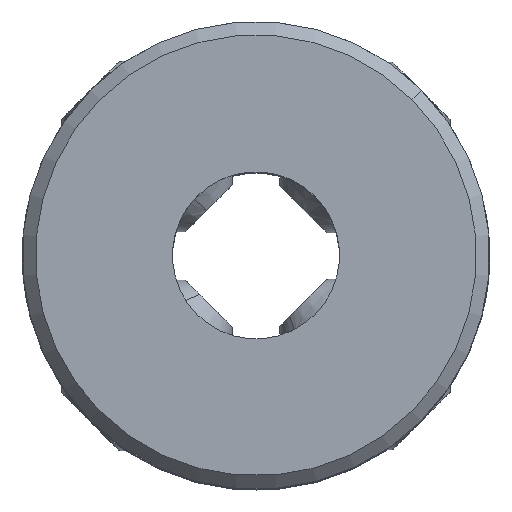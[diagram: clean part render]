
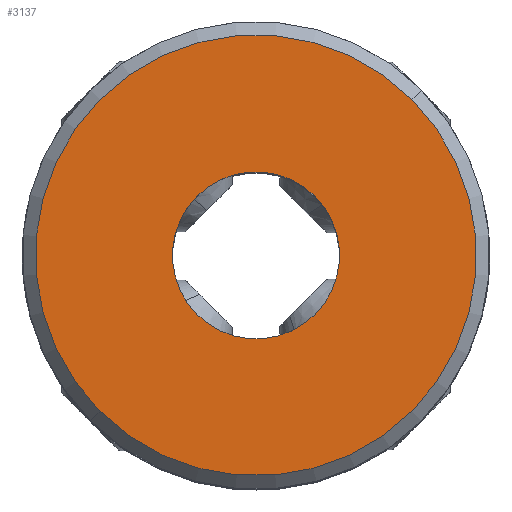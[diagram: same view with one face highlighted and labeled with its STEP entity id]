
A CAD part, top view. The second image highlights one B-rep face of the part: STEP entity #3137.
In plain terms, the highlighted planar face has unit normal (0, 0, 1).
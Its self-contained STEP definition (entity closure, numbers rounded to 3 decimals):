
#177 = ORIENTED_EDGE ( 'NONE', *, *, #7961, .T. ) ;
#189 = CARTESIAN_POINT ( 'NONE',  ( 0., 0., 11. ) ) ;
#813 = DIRECTION ( 'NONE',  ( 0., 0., -1. ) ) ;
#1321 = EDGE_LOOP ( 'NONE', ( #2230, #177 ) ) ;
#1416 = CIRCLE ( 'NONE', #7337, 6.6 ) ;
#1587 = EDGE_CURVE ( 'NONE', #6333, #5643, #1899, .T. ) ;
#1853 = DIRECTION ( 'NONE',  ( -0.707, -0.707, 0. ) ) ;
#1869 = DIRECTION ( 'NONE',  ( 0., 0., 1. ) ) ;
#1899 = CIRCLE ( 'NONE', #4914, 2.5 ) ;
#2121 = DIRECTION ( 'NONE',  ( 0., 0., -1. ) ) ;
#2230 = ORIENTED_EDGE ( 'NONE', *, *, #5983, .T. ) ;
#2678 = CARTESIAN_POINT ( 'NONE',  ( -4.667, -4.667, 11. ) ) ;
#2713 = DIRECTION ( 'NONE',  ( 0., 0., 1. ) ) ;
#2981 = CARTESIAN_POINT ( 'NONE',  ( 0., 0., 11. ) ) ;
#3137 = ADVANCED_FACE ( 'NONE', ( #6906, #6384 ), #10849, .F. ) ;
#3535 = ORIENTED_EDGE ( 'NONE', *, *, #1587, .T. ) ;
#3940 = VERTEX_POINT ( 'NONE', #2678 ) ;
#3977 = CARTESIAN_POINT ( 'NONE',  ( 1.768, 1.768, 11. ) ) ;
#4140 = CARTESIAN_POINT ( 'NONE',  ( -1.768, -1.768, 11. ) ) ;
#4260 = DIRECTION ( 'NONE',  ( -0.707, -0.707, 0. ) ) ;
#4515 = CARTESIAN_POINT ( 'NONE',  ( 0., 0., 11. ) ) ;
#4762 = EDGE_LOOP ( 'NONE', ( #3535, #10809 ) ) ;
#4914 = AXIS2_PLACEMENT_3D ( 'NONE', #6782, #7619, #6742 ) ;
#5643 = VERTEX_POINT ( 'NONE', #3977 ) ;
#5983 = EDGE_CURVE ( 'NONE', #3940, #9053, #1416, .T. ) ;
#6333 = VERTEX_POINT ( 'NONE', #4140 ) ;
#6384 = FACE_BOUND ( 'NONE', #4762, .T. ) ;
#6618 = EDGE_CURVE ( 'NONE', #5643, #6333, #7638, .T. ) ;
#6742 = DIRECTION ( 'NONE',  ( -0.707, -0.707, 0. ) ) ;
#6782 = CARTESIAN_POINT ( 'NONE',  ( 0., 0., 11. ) ) ;
#6906 = FACE_OUTER_BOUND ( 'NONE', #1321, .T. ) ;
#7271 = DIRECTION ( 'NONE',  ( -0.707, -0.707, 0. ) ) ;
#7337 = AXIS2_PLACEMENT_3D ( 'NONE', #4515, #1869, #10338 ) ;
#7619 = DIRECTION ( 'NONE',  ( 0., 0., -1. ) ) ;
#7638 = CIRCLE ( 'NONE', #9186, 2.5 ) ;
#7707 = CARTESIAN_POINT ( 'NONE',  ( 4.667, 4.667, 11. ) ) ;
#7961 = EDGE_CURVE ( 'NONE', #9053, #3940, #8889, .T. ) ;
#8001 = AXIS2_PLACEMENT_3D ( 'NONE', #189, #2713, #1853 ) ;
#8889 = CIRCLE ( 'NONE', #8001, 6.6 ) ;
#9053 = VERTEX_POINT ( 'NONE', #7707 ) ;
#9186 = AXIS2_PLACEMENT_3D ( 'NONE', #2981, #2121, #7271 ) ;
#9886 = AXIS2_PLACEMENT_3D ( 'NONE', #9993, #813, #4260 ) ;
#9993 = CARTESIAN_POINT ( 'NONE',  ( 0., 0., 11. ) ) ;
#10338 = DIRECTION ( 'NONE',  ( -0.707, -0.707, 0. ) ) ;
#10809 = ORIENTED_EDGE ( 'NONE', *, *, #6618, .T. ) ;
#10849 = PLANE ( 'NONE',  #9886 ) ;
